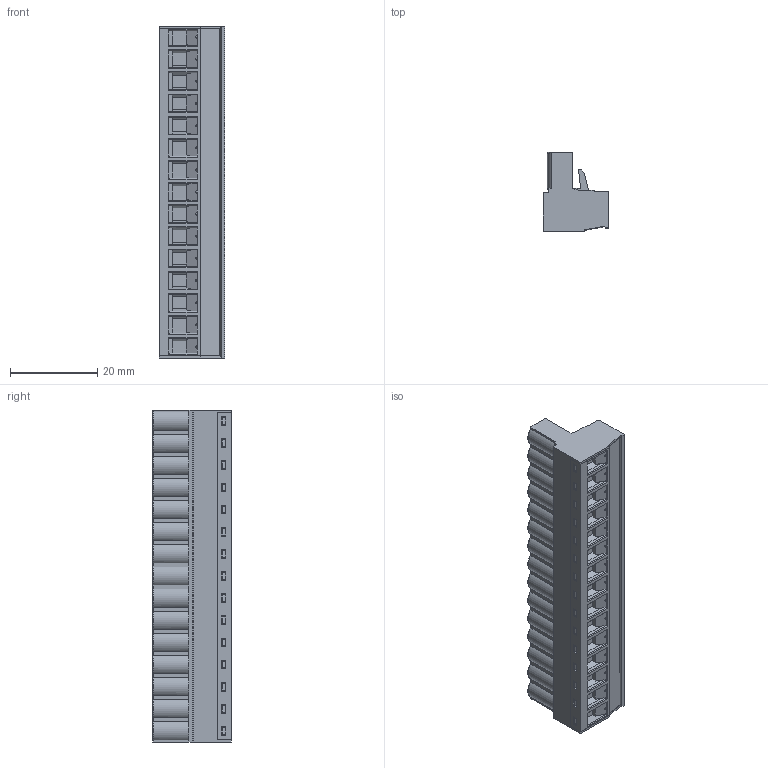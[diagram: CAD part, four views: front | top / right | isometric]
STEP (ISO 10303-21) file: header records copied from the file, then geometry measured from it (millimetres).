
FILE_DESCRIPTION (( 'STEP AP203' ), '1' );
FILE_NAME ('BR8F1-15.STEP', '2020-03-04T02:16:41', ( '' ), ( '' ), 'SwSTEP 2.0', 'SolidWorks 2019', '' );
FILE_SCHEMA (( 'CONFIG_CONTROL_DESIGN' ));
Products named in the file (1): BR8F1-15
Bounding box: 15.05 x 18.1 x 76.2 mm (x, y, z)
Volume: 12100.3 mm3; surface area: 9981.9 mm2
Topology: 1 solids, 1 shells, 1945 faces, 5171 edges, 3318 vertices
Faces by surface type: plane 1193, cylinder 482, cone 120, torus 90, sphere 60
Entity records: 61360 total; most frequent: CARTESIAN_POINT 12409, ORIENTED_EDGE 10342, DIRECTION 9943, EDGE_CURVE 5171, VECTOR 3747, LINE 3747, VERTEX_POINT 3318, AXIS2_PLACEMENT_3D 3098
